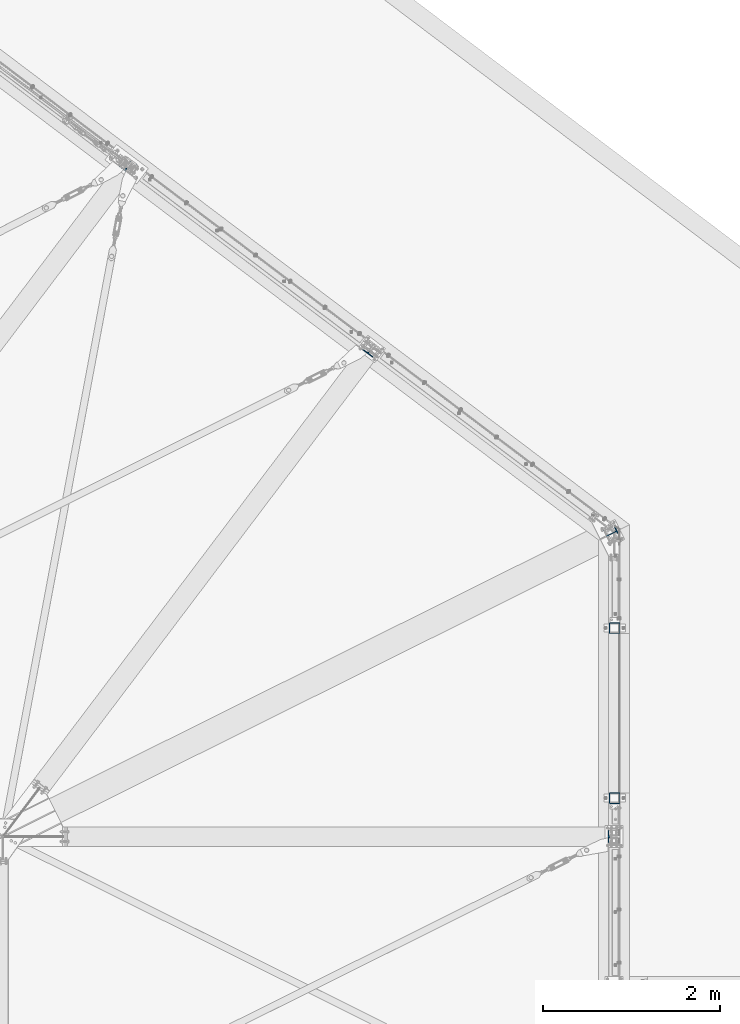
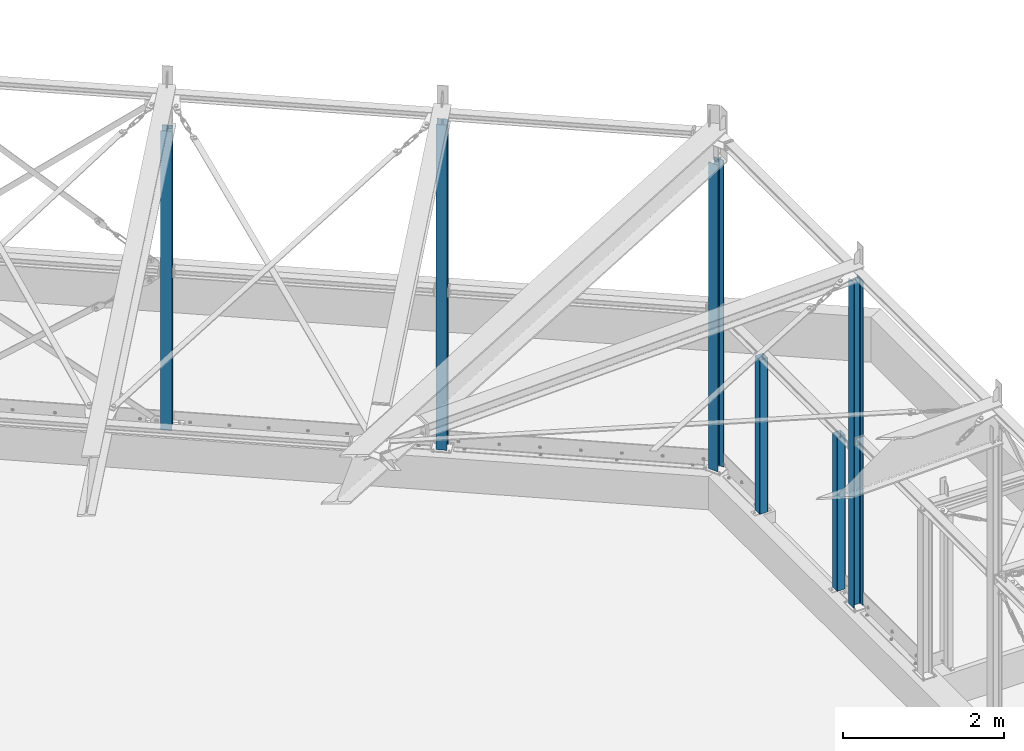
# One storey, part 6 of 476: 6 columns.
"""IFC2X3 building model written with IfcOpenShell, lengths in millimetres."""

from ifc_helpers import new_model, entity, si_unit, converted_unit, frame, origin, origin_with_axes, origin_2d, place, context, project, spatial, hollow_rectangle, i_section, extrude, clip, halfspace, material, element, save


model = new_model("IFC2X3")

# Units and contexts
model_context = context("Model", 3, precision=1e-09, world=origin_with_axes())
ifc_project = project(units=[si_unit("LENGTHUNIT", "METRE", prefix="MILLI"), si_unit("AREAUNIT", "SQUARE_METRE"), si_unit("VOLUMEUNIT", "CUBIC_METRE"), converted_unit("PLANEANGLEUNIT", "DEGREE", entity("IfcPlaneAngleMeasure", 0.01745329), si_unit("PLANEANGLEUNIT", "RADIAN"), dimensions=[0, 0, 0, 0, 0, 0, 0])], contexts=[model_context])

# Site, building, storey
site_placement = place(None, origin_with_axes())
site = spatial("IfcSite", under=ifc_project, at=site_placement, Name="mKR Teilneubau & Sanierung BA1 - Ostfildern", CompositionType="ELEMENT")
building_placement = place(site_placement, origin_with_axes())
building = spatial("IfcBuilding", under=site, at=building_placement, Name="Struktur 1", CompositionType="ELEMENT")
storey_placement = place(building_placement, origin_with_axes())
storey = spatial("IfcBuildingStorey", under=building, at=storey_placement, Name="Default Storey", CompositionType="ELEMENT", Elevation=0.0)

# Columns
ifc_material = material(Name="S235JR")
column_1_placement = place(None, frame((16483.344939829, 5062.922938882, 403.448200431), z_axis=(0.0, 0.0, 1.0), x_axis=(0.797941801, -0.602734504, 0.0)))
element("IfcColumn", 1, at=column_1_placement, inside=storey, material=ifc_material, Name="-", ObjectType="-", context=model_context, shape_type="Clipping", body=[
    clip(clip(extrude(i_section(OverallWidth=140.0, OverallDepth=133.0, WebThickness=5.5, FlangeThickness=8.5, FilletRadius=12.0, at=origin_2d()), origin(), (0.0, 0.0, 1.0), 5082.024663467), halfspace(frame((-10101.151595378, -13974.998588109, 141.552799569), z_axis=(0.0, 0.0, 1.0), x_axis=(0.797941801, 0.602734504, 0.0)), True)), halfspace(frame((-10101.151595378, -14114.591715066, 4241.062548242), z_axis=(0.0, 0.030041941, -0.999548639), x_axis=(-1.0, 0.0, 0.0)), True)),
])
column_2_placement = place(None, frame((19224.476861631, 2992.377432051, 403.448200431), z_axis=(0.0, 0.0, 1.0), x_axis=(0.797941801, -0.602734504, 0.0)))
element("IfcColumn", 2, at=column_2_placement, inside=storey, material=ifc_material, Name="-", ObjectType="-", context=model_context, shape_type="Clipping", body=[
    clip(clip(extrude(i_section(OverallWidth=140.0, OverallDepth=133.0, WebThickness=5.5, FlangeThickness=8.5, FilletRadius=12.0, at=origin_2d()), origin(), (0.0, 0.0, 1.0), 5152.056273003), halfspace(frame((-13536.404556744, -13974.998567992, 136.552799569), z_axis=(0.0, 0.0, 1.0), x_axis=(0.797941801, 0.602734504, 0.0)), True)), halfspace(frame((-13536.404556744, -14126.30805214, 4630.886518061), z_axis=(0.0, 0.030041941, -0.999548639), x_axis=(-1.0, 0.0, 0.0)), True)),
])
column_3_placement = place(None, frame((21965.608764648, -2513.420954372, 403.448200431), z_axis=(0.0, 0.0, -1.0), x_axis=(0.0, 1.0, 0.0)))
element("IfcColumn", 3, at=column_3_placement, inside=storey, material=ifc_material, Name="-", ObjectType="-", context=model_context, shape_type="Clipping", body=[
    clip(clip(extrude(i_section(OverallWidth=140.0, OverallDepth=133.0, WebThickness=5.5, FlangeThickness=8.5, FilletRadius=12.0, at=origin_2d()), origin(), (0.0, 0.0, -1.0), 5152.056273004), halfspace(frame((2513.420954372, -21965.608764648, -136.552799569), z_axis=(0.0, 0.0, -1.0), x_axis=(0.0, 1.0, 0.0)), True)), halfspace(frame((2513.420954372, -22109.706577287, -4390.94142499), z_axis=(0.0, 0.030041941, 0.999548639), x_axis=(1.0, 0.0, 0.0)), True)),
])
column_4_placement = place(None, frame((21972.108734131, -159.102759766, 2855.0), z_axis=(0.0, 0.0, -1.0), x_axis=(0.0, 1.0, 0.0)))
element("IfcColumn", 4, at=column_4_placement, inside=storey, material=ifc_material, Name="-", ObjectType="-", context=model_context, shape_type="Clipping", body=[
    clip(extrude(hollow_rectangle(XDim=120.0, YDim=120.0, WallThickness=4.0, InnerFilletRadius=4.0, OuterFilletRadius=8.0, at=origin_2d()), origin(), (0.0, 0.0, 1.0), 2439.852813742), halfspace(frame((159.102759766, -21972.108734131, 2329.999), z_axis=(0.0, 0.0, -1.0), x_axis=(0.0, 1.0, 0.0)), True)),
])
column_5_placement = place(None, frame((21941.372768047, 909.775789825, 403.448200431), z_axis=(0.0, 0.0, 1.0), x_axis=(-0.44568234, 0.895191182, 0.0)))
element("IfcColumn", 5, at=column_5_placement, inside=storey, material=ifc_material, Name="-", ObjectType="-", context=model_context, shape_type="Clipping", body=[
    clip(clip(extrude(i_section(OverallWidth=140.0, OverallDepth=133.0, WebThickness=5.5, FlangeThickness=8.5, FilletRadius=12.0, at=origin_2d()), origin(), (0.0, 0.0, 1.0), 5082.016004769), halfspace(frame((8964.459085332, 20047.194423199, 136.552799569), z_axis=(0.0, 0.0, 1.0), x_axis=(-0.44568234, -0.895191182, 0.0)), True)), halfspace(frame((8964.459085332, 20171.910176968, 4231.890119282), z_axis=(0.0, -0.026895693, -0.999638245), x_axis=(1.0, 0.0, 0.0)), True)),
])
column_6_placement = place(None, frame((21972.108734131, -2079.104698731, 2855.0), z_axis=(0.0, 0.0, 1.0), x_axis=(0.0, -1.0, 0.0)))
element("IfcColumn", 6, at=column_6_placement, inside=storey, material=ifc_material, Name="-", ObjectType="-", context=model_context, shape_type="Clipping", body=[
    clip(extrude(hollow_rectangle(XDim=120.0, YDim=120.0, WallThickness=4.0, InnerFilletRadius=4.0, OuterFilletRadius=8.0, at=origin_2d()), origin(), (0.0, 0.0, -1.0), 2439.852813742), halfspace(frame((-2079.104698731, -21972.108734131, -2329.999), z_axis=(0.0, 0.0, 1.0), x_axis=(0.0, 1.0, 0.0)), True)),
])

save(model, "model.ifc")
